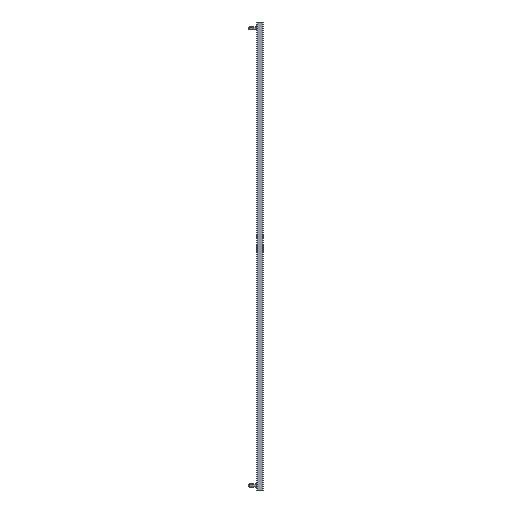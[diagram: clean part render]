
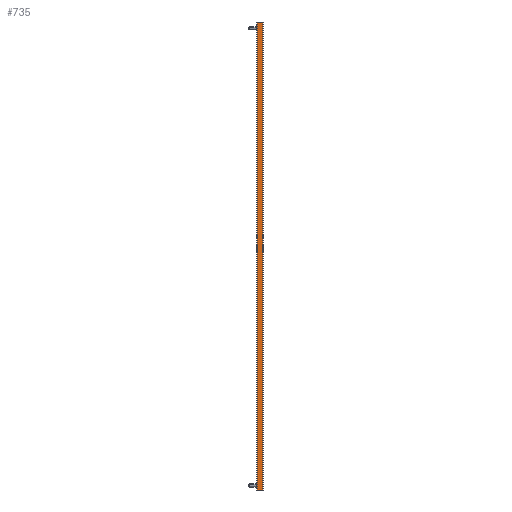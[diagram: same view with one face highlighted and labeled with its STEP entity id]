
A CAD part, left-side view. The second image highlights one B-rep face of the part: STEP entity #735.
In plain terms, the highlighted planar face has unit normal (-1, 0, 0).
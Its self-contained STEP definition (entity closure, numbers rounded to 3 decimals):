
#18 = ORIENTED_EDGE ( 'NONE', *, *, #1912, .T. ) ;
#46 = LINE ( 'NONE', #2811, #2444 ) ;
#108 = DIRECTION ( 'NONE',  ( 0., 1., 0. ) ) ;
#273 = VECTOR ( 'NONE', #1761, 1000. ) ;
#433 = AXIS2_PLACEMENT_3D ( 'NONE', #2835, #2131, #1836 ) ;
#481 = ORIENTED_EDGE ( 'NONE', *, *, #3239, .T. ) ;
#622 = VECTOR ( 'NONE', #4103, 1000. ) ;
#735 = ADVANCED_FACE ( 'NONE', ( #2517 ), #762, .T. ) ;
#762 = PLANE ( 'NONE',  #433 ) ;
#804 = LINE ( 'NONE', #2946, #3786 ) ;
#862 = VERTEX_POINT ( 'NONE', #3750 ) ;
#903 = VECTOR ( 'NONE', #108, 1000. ) ;
#922 = VERTEX_POINT ( 'NONE', #3040 ) ;
#1010 = CARTESIAN_POINT ( 'NONE',  ( -8., 3.2, 0. ) ) ;
#1036 = EDGE_CURVE ( 'NONE', #1376, #2548, #2863, .T. ) ;
#1376 = VERTEX_POINT ( 'NONE', #1010 ) ;
#1497 = CARTESIAN_POINT ( 'NONE',  ( -8., 0., 879. ) ) ;
#1678 = CARTESIAN_POINT ( 'NONE',  ( -8., 0., 879. ) ) ;
#1707 = ORIENTED_EDGE ( 'NONE', *, *, #2551, .T. ) ;
#1761 = DIRECTION ( 'NONE',  ( 0., -1., 0. ) ) ;
#1826 = LINE ( 'NONE', #1497, #903 ) ;
#1836 = DIRECTION ( 'NONE',  ( 0., 0., 1. ) ) ;
#1893 = DIRECTION ( 'NONE',  ( 0., -1., 0. ) ) ;
#1912 = EDGE_CURVE ( 'NONE', #862, #1376, #46, .T. ) ;
#2056 = DIRECTION ( 'NONE',  ( 0., -1., 0. ) ) ;
#2106 = VERTEX_POINT ( 'NONE', #2145 ) ;
#2131 = DIRECTION ( 'NONE',  ( -1., 0., 0. ) ) ;
#2145 = CARTESIAN_POINT ( 'NONE',  ( -8., 9.3, 879. ) ) ;
#2210 = LINE ( 'NONE', #3598, #2293 ) ;
#2293 = VECTOR ( 'NONE', #3339, 1000. ) ;
#2408 = EDGE_CURVE ( 'NONE', #3884, #2106, #3094, .T. ) ;
#2444 = VECTOR ( 'NONE', #2056, 1000. ) ;
#2517 = FACE_OUTER_BOUND ( 'NONE', #4230, .T. ) ;
#2548 = VERTEX_POINT ( 'NONE', #2550 ) ;
#2550 = CARTESIAN_POINT ( 'NONE',  ( -8., 0., 0. ) ) ;
#2551 = EDGE_CURVE ( 'NONE', #4004, #2616, #2210, .T. ) ;
#2616 = VERTEX_POINT ( 'NONE', #4021 ) ;
#2641 = VECTOR ( 'NONE', #1893, 1000. ) ;
#2811 = CARTESIAN_POINT ( 'NONE',  ( -8., 0., 0. ) ) ;
#2835 = CARTESIAN_POINT ( 'NONE',  ( -8., 0., 879. ) ) ;
#2863 = LINE ( 'NONE', #4247, #3082 ) ;
#2918 = EDGE_CURVE ( 'NONE', #2548, #4004, #3399, .T. ) ;
#2921 = CARTESIAN_POINT ( 'NONE',  ( -8., 0., 0. ) ) ;
#2946 = CARTESIAN_POINT ( 'NONE',  ( -8., 12.5, 879. ) ) ;
#2997 = ORIENTED_EDGE ( 'NONE', *, *, #1036, .T. ) ;
#3040 = CARTESIAN_POINT ( 'NONE',  ( -8., 12.5, 0. ) ) ;
#3048 = CARTESIAN_POINT ( 'NONE',  ( -8., 12.5, 879. ) ) ;
#3064 = CARTESIAN_POINT ( 'NONE',  ( -8., 0., 879. ) ) ;
#3082 = VECTOR ( 'NONE', #3501, 1000. ) ;
#3094 = LINE ( 'NONE', #3048, #273 ) ;
#3239 = EDGE_CURVE ( 'NONE', #922, #862, #3629, .T. ) ;
#3265 = EDGE_CURVE ( 'NONE', #922, #3884, #804, .T. ) ;
#3339 = DIRECTION ( 'NONE',  ( 0., 1., 0. ) ) ;
#3399 = LINE ( 'NONE', #1678, #622 ) ;
#3501 = DIRECTION ( 'NONE',  ( 0., -1., 0. ) ) ;
#3518 = ORIENTED_EDGE ( 'NONE', *, *, #2408, .F. ) ;
#3579 = DIRECTION ( 'NONE',  ( 0., 0., 1. ) ) ;
#3598 = CARTESIAN_POINT ( 'NONE',  ( -8., 0., 879. ) ) ;
#3629 = LINE ( 'NONE', #2921, #2641 ) ;
#3667 = EDGE_CURVE ( 'NONE', #2616, #2106, #1826, .T. ) ;
#3750 = CARTESIAN_POINT ( 'NONE',  ( -8., 9.3, 0. ) ) ;
#3786 = VECTOR ( 'NONE', #3579, 1000. ) ;
#3884 = VERTEX_POINT ( 'NONE', #4164 ) ;
#4004 = VERTEX_POINT ( 'NONE', #3064 ) ;
#4016 = ORIENTED_EDGE ( 'NONE', *, *, #2918, .T. ) ;
#4021 = CARTESIAN_POINT ( 'NONE',  ( -8., 3.2, 879. ) ) ;
#4103 = DIRECTION ( 'NONE',  ( 0., 0., 1. ) ) ;
#4164 = CARTESIAN_POINT ( 'NONE',  ( -8., 12.5, 879. ) ) ;
#4230 = EDGE_LOOP ( 'NONE', ( #4252, #481, #18, #2997, #4016, #1707, #4343, #3518 ) ) ;
#4247 = CARTESIAN_POINT ( 'NONE',  ( -8., 0., 0. ) ) ;
#4252 = ORIENTED_EDGE ( 'NONE', *, *, #3265, .F. ) ;
#4343 = ORIENTED_EDGE ( 'NONE', *, *, #3667, .T. ) ;
